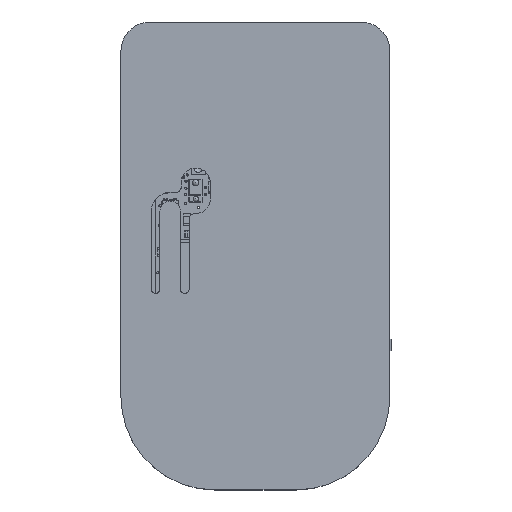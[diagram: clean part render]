
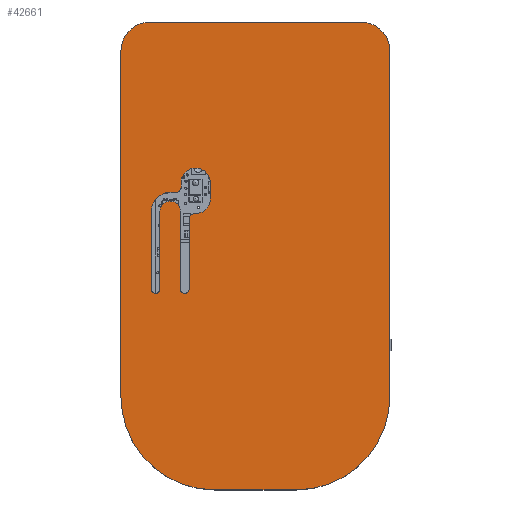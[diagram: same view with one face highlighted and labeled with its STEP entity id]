
A CAD part, top view. The second image highlights one B-rep face of the part: STEP entity #42661.
In plain terms, the highlighted planar face has unit normal (0, 0, 1).
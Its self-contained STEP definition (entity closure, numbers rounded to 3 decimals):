
#954=FACE_BOUND('',#7252,.T.);
#1950=CIRCLE('',#46343,1.);
#1951=CIRCLE('',#46345,2.5);
#1953=CIRCLE('',#46348,16.);
#1954=CIRCLE('',#46349,5.);
#1955=CIRCLE('',#46350,5.);
#1956=CIRCLE('',#46351,16.);
#1957=CIRCLE('',#46352,0.75);
#1958=CIRCLE('',#46353,1.75);
#1959=CIRCLE('',#46354,0.75);
#1960=CIRCLE('',#46355,3.25);
#1961=CIRCLE('',#46356,1.);
#1962=CIRCLE('',#46357,2.5);
#4654=FACE_OUTER_BOUND('',#7251,.T.);
#7251=EDGE_LOOP('',(#37665,#37666,#37667,#37668,#37669,#37670,#37671,#37672));
#7252=EDGE_LOOP('',(#37673,#37674,#37675,#37676,#37677,#37678,#37679,#37680,
#37681,#37682,#37683,#37684,#37685,#37686));
#11939=LINE('',#71162,#16646);
#11940=LINE('',#71166,#16647);
#11941=LINE('',#71170,#16648);
#11942=LINE('',#71174,#16649);
#11943=LINE('',#71177,#16650);
#11944=LINE('',#71181,#16651);
#11945=LINE('',#71185,#16652);
#11946=LINE('',#71189,#16653);
#11947=LINE('',#71195,#16654);
#11948=LINE('',#71198,#16655);
#16646=VECTOR('',#57499,10.);
#16647=VECTOR('',#57502,10.);
#16648=VECTOR('',#57505,10.);
#16649=VECTOR('',#57508,10.);
#16650=VECTOR('',#57511,10.);
#16651=VECTOR('',#57514,10.);
#16652=VECTOR('',#57517,10.);
#16653=VECTOR('',#57520,10.);
#16654=VECTOR('',#57525,10.);
#16655=VECTOR('',#57528,10.);
#20416=VERTEX_POINT('',#71148);
#20417=VERTEX_POINT('',#71150);
#20418=VERTEX_POINT('',#71154);
#20420=VERTEX_POINT('',#71160);
#20421=VERTEX_POINT('',#71161);
#20422=VERTEX_POINT('',#71163);
#20423=VERTEX_POINT('',#71165);
#20424=VERTEX_POINT('',#71167);
#20425=VERTEX_POINT('',#71169);
#20426=VERTEX_POINT('',#71171);
#20427=VERTEX_POINT('',#71173);
#20428=VERTEX_POINT('',#71176);
#20429=VERTEX_POINT('',#71178);
#20430=VERTEX_POINT('',#71180);
#20431=VERTEX_POINT('',#71182);
#20432=VERTEX_POINT('',#71184);
#20433=VERTEX_POINT('',#71186);
#20434=VERTEX_POINT('',#71188);
#20435=VERTEX_POINT('',#71190);
#20436=VERTEX_POINT('',#71192);
#20437=VERTEX_POINT('',#71194);
#20438=VERTEX_POINT('',#71196);
#26181=EDGE_CURVE('',#20416,#20417,#1950,.T.);
#26183=EDGE_CURVE('',#20418,#20417,#1951,.T.);
#26186=EDGE_CURVE('',#20420,#20421,#11939,.T.);
#26187=EDGE_CURVE('',#20421,#20422,#1953,.T.);
#26188=EDGE_CURVE('',#20422,#20423,#11940,.T.);
#26189=EDGE_CURVE('',#20423,#20424,#1954,.T.);
#26190=EDGE_CURVE('',#20424,#20425,#11941,.T.);
#26191=EDGE_CURVE('',#20425,#20426,#1955,.T.);
#26192=EDGE_CURVE('',#20426,#20427,#11942,.T.);
#26193=EDGE_CURVE('',#20427,#20420,#1956,.T.);
#26194=EDGE_CURVE('',#20416,#20428,#11943,.T.);
#26195=EDGE_CURVE('',#20429,#20428,#1957,.T.);
#26196=EDGE_CURVE('',#20429,#20430,#11944,.T.);
#26197=EDGE_CURVE('',#20430,#20431,#1958,.T.);
#26198=EDGE_CURVE('',#20431,#20432,#11945,.T.);
#26199=EDGE_CURVE('',#20433,#20432,#1959,.T.);
#26200=EDGE_CURVE('',#20433,#20434,#11946,.T.);
#26201=EDGE_CURVE('',#20434,#20435,#1960,.T.);
#26202=EDGE_CURVE('',#20436,#20435,#1961,.T.);
#26203=EDGE_CURVE('',#20436,#20437,#11947,.T.);
#26204=EDGE_CURVE('',#20437,#20438,#1962,.T.);
#26205=EDGE_CURVE('',#20438,#20418,#11948,.T.);
#37665=ORIENTED_EDGE('',*,*,#26186,.T.);
#37666=ORIENTED_EDGE('',*,*,#26187,.T.);
#37667=ORIENTED_EDGE('',*,*,#26188,.T.);
#37668=ORIENTED_EDGE('',*,*,#26189,.T.);
#37669=ORIENTED_EDGE('',*,*,#26190,.T.);
#37670=ORIENTED_EDGE('',*,*,#26191,.T.);
#37671=ORIENTED_EDGE('',*,*,#26192,.T.);
#37672=ORIENTED_EDGE('',*,*,#26193,.T.);
#37673=ORIENTED_EDGE('',*,*,#26181,.F.);
#37674=ORIENTED_EDGE('',*,*,#26194,.T.);
#37675=ORIENTED_EDGE('',*,*,#26195,.F.);
#37676=ORIENTED_EDGE('',*,*,#26196,.T.);
#37677=ORIENTED_EDGE('',*,*,#26197,.T.);
#37678=ORIENTED_EDGE('',*,*,#26198,.T.);
#37679=ORIENTED_EDGE('',*,*,#26199,.F.);
#37680=ORIENTED_EDGE('',*,*,#26200,.T.);
#37681=ORIENTED_EDGE('',*,*,#26201,.T.);
#37682=ORIENTED_EDGE('',*,*,#26202,.F.);
#37683=ORIENTED_EDGE('',*,*,#26203,.T.);
#37684=ORIENTED_EDGE('',*,*,#26204,.T.);
#37685=ORIENTED_EDGE('',*,*,#26205,.T.);
#37686=ORIENTED_EDGE('',*,*,#26183,.T.);
#39659=PLANE('',#46347);
#42661=ADVANCED_FACE('',(#4654,#954),#39659,.T.);
#46343=AXIS2_PLACEMENT_3D('',#71151,#57487,#57488);
#46345=AXIS2_PLACEMENT_3D('',#71155,#57492,#57493);
#46347=AXIS2_PLACEMENT_3D('',#71159,#57497,#57498);
#46348=AXIS2_PLACEMENT_3D('',#71164,#57500,#57501);
#46349=AXIS2_PLACEMENT_3D('',#71168,#57503,#57504);
#46350=AXIS2_PLACEMENT_3D('',#71172,#57506,#57507);
#46351=AXIS2_PLACEMENT_3D('',#71175,#57509,#57510);
#46352=AXIS2_PLACEMENT_3D('',#71179,#57512,#57513);
#46353=AXIS2_PLACEMENT_3D('',#71183,#57515,#57516);
#46354=AXIS2_PLACEMENT_3D('',#71187,#57518,#57519);
#46355=AXIS2_PLACEMENT_3D('',#71191,#57521,#57522);
#46356=AXIS2_PLACEMENT_3D('',#71193,#57523,#57524);
#46357=AXIS2_PLACEMENT_3D('',#71197,#57526,#57527);
#57487=DIRECTION('center_axis',(0.,0.,-1.));
#57488=DIRECTION('ref_axis',(-0.695,0.719,0.));
#57492=DIRECTION('center_axis',(0.,0.,-1.));
#57493=DIRECTION('ref_axis',(-1.,0.,0.));
#57497=DIRECTION('center_axis',(0.,0.,1.));
#57498=DIRECTION('ref_axis',(1.,0.,0.));
#57499=DIRECTION('',(1.,0.,0.));
#57500=DIRECTION('center_axis',(0.,0.,1.));
#57501=DIRECTION('ref_axis',(0.,-1.,0.));
#57502=DIRECTION('',(0.,1.,0.));
#57503=DIRECTION('center_axis',(0.,0.,1.));
#57504=DIRECTION('ref_axis',(1.,0.,0.));
#57505=DIRECTION('',(-1.,0.,0.));
#57506=DIRECTION('center_axis',(0.,0.,1.));
#57507=DIRECTION('ref_axis',(0.,1.,0.));
#57508=DIRECTION('',(0.,-1.,0.));
#57509=DIRECTION('center_axis',(0.,0.,1.));
#57510=DIRECTION('ref_axis',(-1.,0.,0.));
#57511=DIRECTION('',(0.,-1.,0.));
#57512=DIRECTION('center_axis',(0.,0.,1.));
#57513=DIRECTION('ref_axis',(-0.707,-0.707,0.));
#57514=DIRECTION('',(0.,1.,0.));
#57515=DIRECTION('center_axis',(0.,0.,1.));
#57516=DIRECTION('ref_axis',(1.,0.,0.));
#57517=DIRECTION('',(0.,-1.,0.));
#57518=DIRECTION('center_axis',(0.,0.,1.));
#57519=DIRECTION('ref_axis',(-0.707,-0.707,0.));
#57520=DIRECTION('',(0.,1.,0.));
#57521=DIRECTION('center_axis',(0.,0.,-1.));
#57522=DIRECTION('ref_axis',(1.,0.,0.));
#57523=DIRECTION('center_axis',(0.,0.,-1.));
#57524=DIRECTION('ref_axis',(0.631,-0.776,0.));
#57525=DIRECTION('',(0.,1.,0.));
#57526=DIRECTION('center_axis',(0.,0.,-1.));
#57527=DIRECTION('ref_axis',(1.,0.,0.));
#57528=DIRECTION('',(0.,-1.,0.));
#71148=CARTESIAN_POINT('',(-11.325,6.26,13.5));
#71150=CARTESIAN_POINT('',(-10.291,7.259,13.5));
#71151=CARTESIAN_POINT('Origin',(-10.325,6.26,13.5));
#71154=CARTESIAN_POINT('',(-7.706,9.758,13.5));
#71155=CARTESIAN_POINT('Origin',(-10.206,9.758,13.5));
#71159=CARTESIAN_POINT('Origin',(0.,0.,
13.5));
#71160=CARTESIAN_POINT('',(-7.,-40.,13.5));
#71161=CARTESIAN_POINT('',(7.,-40.,13.5));
#71162=CARTESIAN_POINT('',(-7.,-40.,13.5));
#71163=CARTESIAN_POINT('',(23.,-24.,13.5));
#71164=CARTESIAN_POINT('Origin',(7.,-24.,13.5));
#71165=CARTESIAN_POINT('',(23.,35.,13.5));
#71166=CARTESIAN_POINT('',(23.,-24.,13.5));
#71167=CARTESIAN_POINT('',(18.,40.,13.5));
#71168=CARTESIAN_POINT('Origin',(18.,35.,13.5));
#71169=CARTESIAN_POINT('',(-18.,40.,13.5));
#71170=CARTESIAN_POINT('',(18.,40.,13.5));
#71171=CARTESIAN_POINT('',(-23.,35.,13.5));
#71172=CARTESIAN_POINT('Origin',(-18.,35.,13.5));
#71173=CARTESIAN_POINT('',(-23.,-24.,13.5));
#71174=CARTESIAN_POINT('',(-23.,35.,13.5));
#71175=CARTESIAN_POINT('Origin',(-7.,-24.,13.5));
#71176=CARTESIAN_POINT('',(-11.325,-5.644,13.5));
#71177=CARTESIAN_POINT('',(-11.325,-3.197,13.5));
#71178=CARTESIAN_POINT('',(-12.825,-5.644,13.5));
#71179=CARTESIAN_POINT('Origin',(-12.075,-5.644,13.5));
#71180=CARTESIAN_POINT('',(-12.825,7.606,13.5));
#71181=CARTESIAN_POINT('',(-12.825,-3.197,13.5));
#71182=CARTESIAN_POINT('',(-16.325,7.606,13.5));
#71183=CARTESIAN_POINT('Origin',(-14.575,7.606,13.5));
#71184=CARTESIAN_POINT('',(-16.325,-5.644,13.5));
#71185=CARTESIAN_POINT('',(-16.325,3.803,13.5));
#71186=CARTESIAN_POINT('',(-17.825,-5.644,13.5));
#71187=CARTESIAN_POINT('Origin',(-17.075,-5.644,13.5));
#71188=CARTESIAN_POINT('',(-17.825,7.606,13.5));
#71189=CARTESIAN_POINT('',(-17.825,3.803,13.5));
#71190=CARTESIAN_POINT('',(-13.91,10.787,13.5));
#71191=CARTESIAN_POINT('Origin',(-14.575,7.606,13.5));
#71192=CARTESIAN_POINT('',(-12.706,11.766,13.5));
#71193=CARTESIAN_POINT('Origin',(-13.706,11.766,13.5));
#71194=CARTESIAN_POINT('',(-12.706,12.528,13.5));
#71195=CARTESIAN_POINT('',(-12.706,4.879,13.5));
#71196=CARTESIAN_POINT('',(-7.706,12.528,13.5));
#71197=CARTESIAN_POINT('Origin',(-10.206,12.528,13.5));
#71198=CARTESIAN_POINT('',(-7.706,6.264,13.5));
